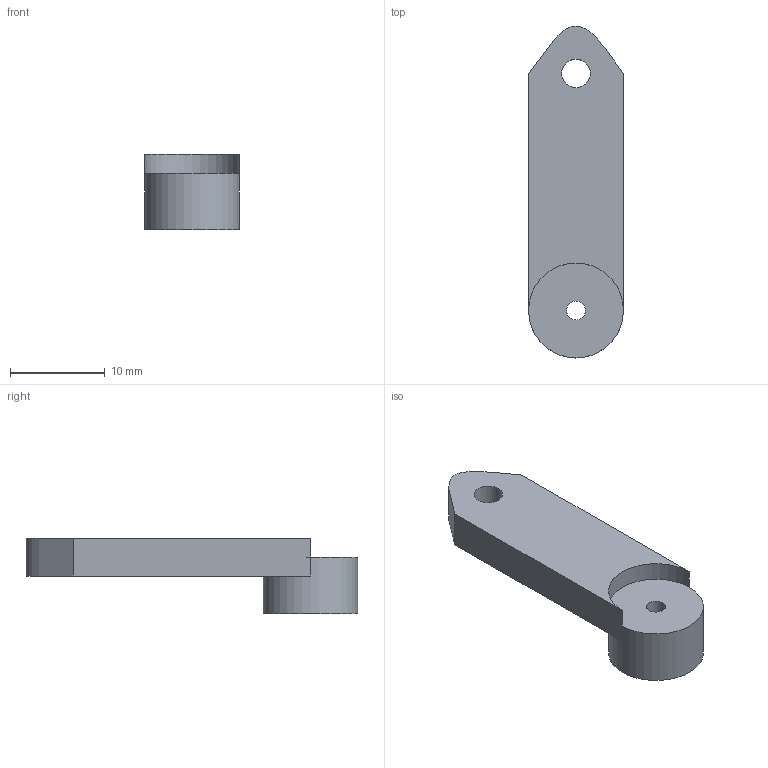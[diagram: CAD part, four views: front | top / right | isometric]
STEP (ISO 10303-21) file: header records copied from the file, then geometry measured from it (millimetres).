
FILE_DESCRIPTION(/* description */ ('STEP AP242 Edition 2','CAx-IF Rec.Pracs.---Representation and Presentation of Product Manufacturing Information (PMI)---4.0---2014-10-13','CAx-IF Rec.Pracs.---3D Tessellated Geometry---0.4---2014-09-14','2;1','CAx-IF Rec.Pracs.---User Defined Attributes---1.5---2016-08-15'),/* implementation_level */ '2;1');
FILE_NAME(/* name */ '695afefed13f1a0233889474',/* time_stamp */ '2026-01-04T23:59:58Z',/* author */ (''),/* organization */ (''),/* preprocessor_version */ 'ST-DEVELOPER v20',/* originating_system */ 'ONSHAPE BY PTC INC, 1.208',/* authorisation */ ' ');
FILE_SCHEMA (('AP242_MANAGED_MODEL_BASED_3D_ENGINEERING_MIM_LF { 1 0 10303 442 3 1 4 }'));
Length unit declared in the file: metre
Products named in the file (1): Part 1
Bounding box: 10 x 34.99 x 8 mm (x, y, z)
Volume: 1323.6 mm3; surface area: 1179.1 mm2
Topology: 1 solids, 1 shells, 13 faces, 27 edges, 17 vertices
Faces by surface type: plane 7, cylinder 5, bspline 1
Full cylindrical faces by diameter (mm): 2 x1, 3 x1, 5 x1, 10 x1
Entity records: 368 total; most frequent: CARTESIAN_POINT 71, DIRECTION 58, ORIENTED_EDGE 46, AXIS2_PLACEMENT_3D 24, EDGE_CURVE 23, EDGE_LOOP 22, FACE_BOUND 22, VERTEX_POINT 17
